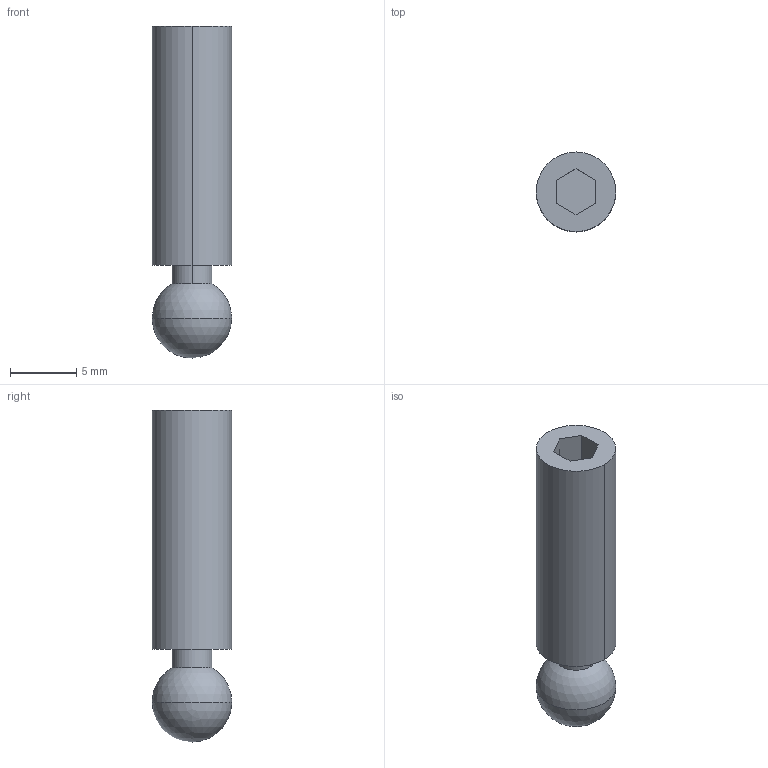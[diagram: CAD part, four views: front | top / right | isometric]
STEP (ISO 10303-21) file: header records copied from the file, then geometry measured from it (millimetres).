
FILE_DESCRIPTION (( 'STEP AP203' ), '1' );
FILE_NAME ('bj736-06025c.STEP', '2021-10-25T00:02:52', ( '' ), ( '' ), 'SwSTEP 2.0', 'SolidWorks 2020', '' );
FILE_SCHEMA (( 'CONFIG_CONTROL_DESIGN' ));
Length unit declared in the file: millimetre
Products named in the file (1): bj736-06025c
Bounding box: 6 x 6 x 25 mm (x, y, z)
Volume: 599.3 mm3; surface area: 549.1 mm2
Topology: 1 solids, 1 shells, 15 faces, 36 edges, 24 vertices
Faces by surface type: plane 9, cylinder 4, sphere 2
Entity records: 489 total; most frequent: DIRECTION 74, CARTESIAN_POINT 70, ORIENTED_EDGE 64, EDGE_CURVE 32, AXIS2_PLACEMENT_3D 26, VECTOR 22, LINE 22, VERTEX_POINT 22
